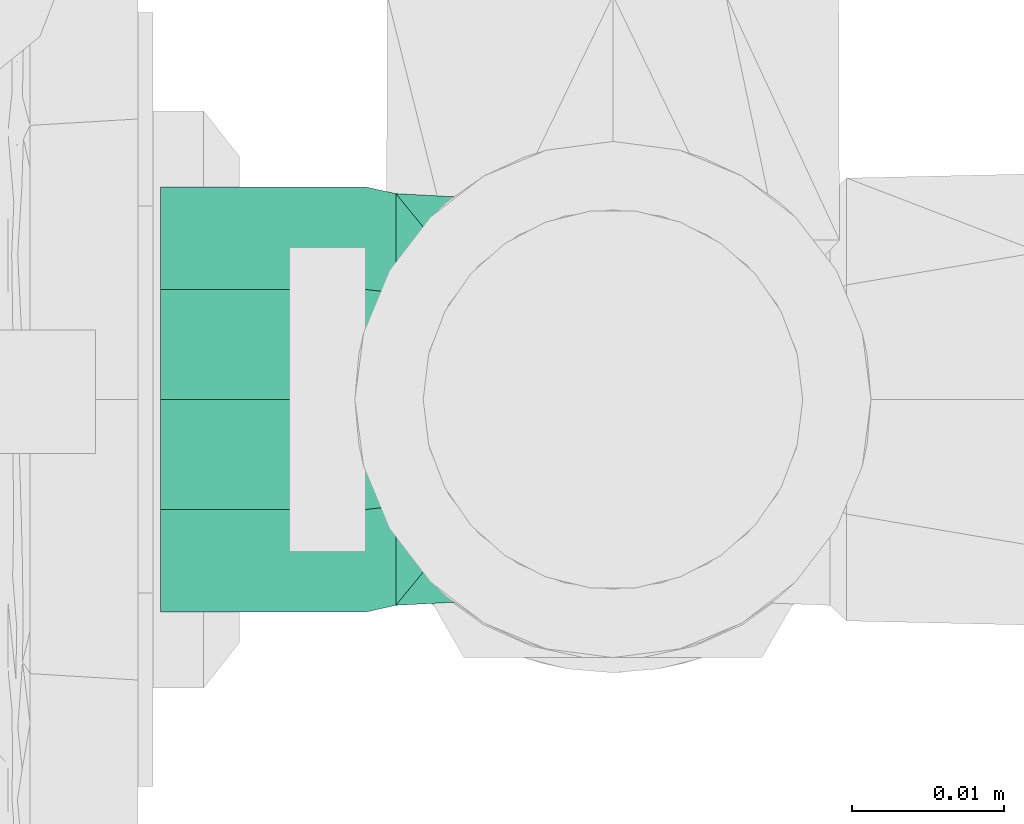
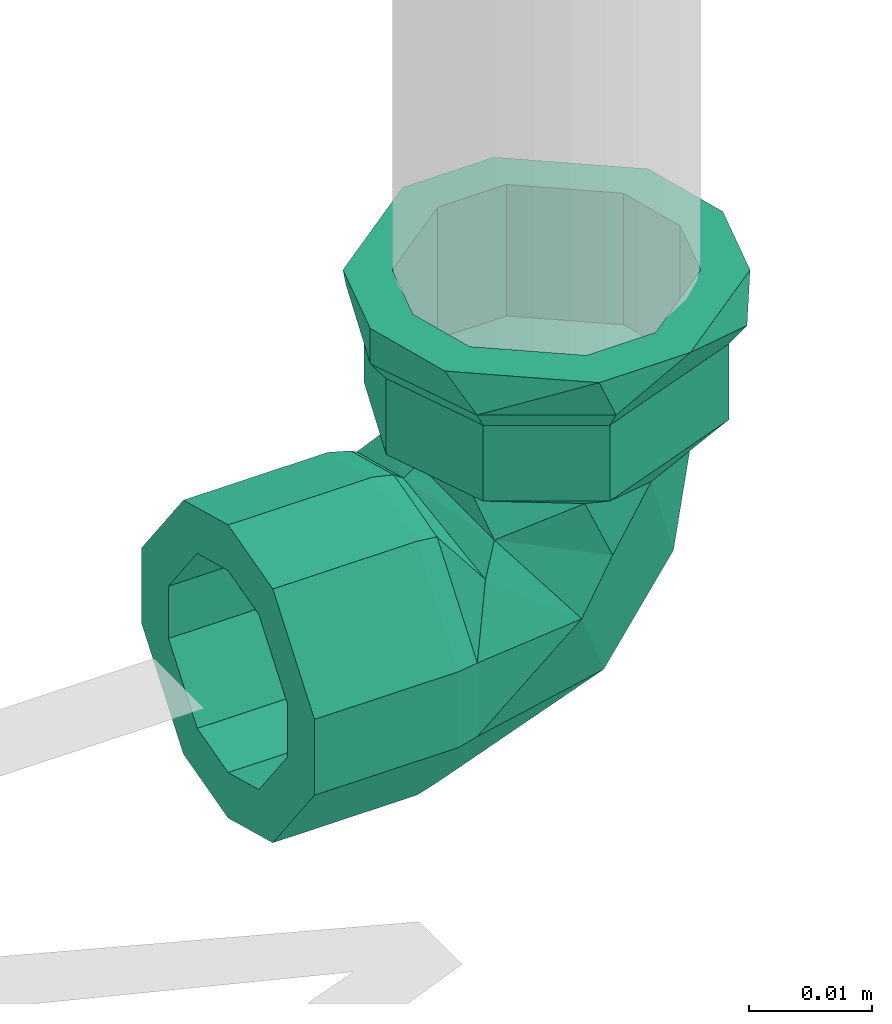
# One storey, part 396 of 589: 1 flow fitting.
"""IFC2X3 building model written with IfcOpenShell, lengths in millimetres."""

from ifc_helpers import new_model, entity, si_unit, converted_unit, derived_unit, direction, frame, origin, place, context, subcontext, project, spatial, faceted_brep, source, transform, mapped, material, type_object, type_shapes, element, save


model = new_model("IFC2X3")

# Units and contexts
model_context = context("Model", 3, precision=0.01, world=origin(), true_north=direction((6.123031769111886e-17, 1.0)))
body_context = subcontext(model_context, "Body", "Model", "MODEL_VIEW")
ifc_project = project(units=[si_unit("LENGTHUNIT", "METRE", prefix="MILLI"), si_unit("AREAUNIT", "SQUARE_METRE"), si_unit("VOLUMEUNIT", "CUBIC_METRE"), converted_unit("PLANEANGLEUNIT", "DEGREE", entity("IfcRatioMeasure", 0.017453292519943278), si_unit("PLANEANGLEUNIT", "RADIAN"), dimensions=[0, 0, 0, 0, 0, 0, 0]), si_unit("MASSUNIT", "GRAM", prefix="KILO"), derived_unit("MASSDENSITYUNIT", [(si_unit("MASSUNIT", "GRAM", prefix="KILO"), 1), (si_unit("LENGTHUNIT", "METRE"), -3)]), derived_unit("IONCONCENTRATIONUNIT", [(si_unit("MASSUNIT", "GRAM", prefix="KILO"), 1), (si_unit("LENGTHUNIT", "METRE"), -3)]), derived_unit("MOMENTOFINERTIAUNIT", [(si_unit("LENGTHUNIT", "METRE"), 4)]), si_unit("TIMEUNIT", "SECOND"), si_unit("FREQUENCYUNIT", "HERTZ"), si_unit("THERMODYNAMICTEMPERATUREUNIT", "DEGREE_CELSIUS"), derived_unit("THERMALTRANSMITTANCEUNIT", [(si_unit("MASSUNIT", "GRAM", prefix="KILO"), 1), (si_unit("THERMODYNAMICTEMPERATUREUNIT", "KELVIN"), -1), (si_unit("TIMEUNIT", "SECOND"), -3)]), derived_unit("THERMALCONDUCTANCEUNIT", [(si_unit("MASSUNIT", "GRAM", prefix="KILO"), 1), (si_unit("THERMODYNAMICTEMPERATUREUNIT", "KELVIN"), -1), (si_unit("TIMEUNIT", "SECOND"), -3), (si_unit("LENGTHUNIT", "METRE"), 1)]), derived_unit("VOLUMETRICFLOWRATEUNIT", [(si_unit("LENGTHUNIT", "METRE"), 3), (si_unit("TIMEUNIT", "SECOND"), -1)]), derived_unit("MASSFLOWRATEUNIT", [(si_unit("MASSUNIT", "GRAM", prefix="KILO"), 1), (si_unit("TIMEUNIT", "SECOND"), -1)]), derived_unit("ROTATIONALFREQUENCYUNIT", [(si_unit("TIMEUNIT", "SECOND"), -1)]), si_unit("ELECTRICCURRENTUNIT", "AMPERE"), si_unit("ELECTRICVOLTAGEUNIT", "VOLT"), si_unit("POWERUNIT", "WATT"), si_unit("FORCEUNIT", "NEWTON", prefix="KILO"), si_unit("ILLUMINANCEUNIT", "LUX"), si_unit("LUMINOUSFLUXUNIT", "LUMEN"), si_unit("LUMINOUSINTENSITYUNIT", "CANDELA"), derived_unit("USERDEFINED", [(si_unit("MASSUNIT", "GRAM", prefix="KILO"), -1), (si_unit("LENGTHUNIT", "METRE"), -2), (si_unit("TIMEUNIT", "SECOND"), 3), (si_unit("LUMINOUSFLUXUNIT", "LUMEN"), 1)]), derived_unit("USERDEFINED", [(si_unit("MASSUNIT", "GRAM", prefix="KILO"), 1), (si_unit("TIMEUNIT", "SECOND"), -3), (si_unit("LENGTHUNIT", "METRE"), 3), (si_unit("ELECTRICCURRENTUNIT", "AMPERE"), -2)]), derived_unit("SOUNDPOWERUNIT", [(si_unit("MASSUNIT", "GRAM", prefix="KILO"), 1), (si_unit("TIMEUNIT", "SECOND"), -3), (si_unit("LENGTHUNIT", "METRE"), 2)]), derived_unit("SOUNDPRESSUREUNIT", [(si_unit("MASSUNIT", "GRAM", prefix="KILO"), 1), (si_unit("LENGTHUNIT", "METRE"), -1), (si_unit("TIMEUNIT", "SECOND"), -2)]), derived_unit("LINEARVELOCITYUNIT", [(si_unit("LENGTHUNIT", "METRE"), 1), (si_unit("TIMEUNIT", "SECOND"), -1)]), si_unit("PRESSUREUNIT", "PASCAL"), derived_unit("USERDEFINED", [(si_unit("MASSUNIT", "GRAM", prefix="KILO"), 1), (si_unit("LENGTHUNIT", "METRE"), -2), (si_unit("TIMEUNIT", "SECOND"), -2)]), derived_unit("LINEARFORCEUNIT", [(si_unit("MASSUNIT", "GRAM", prefix="KILO"), 1), (si_unit("TIMEUNIT", "SECOND"), -2)]), derived_unit("PLANARFORCEUNIT", [(si_unit("MASSUNIT", "GRAM", prefix="KILO"), 1), (si_unit("LENGTHUNIT", "METRE"), -1), (si_unit("TIMEUNIT", "SECOND"), -2)]), derived_unit("SPECIFICHEATCAPACITYUNIT", [(si_unit("THERMODYNAMICTEMPERATUREUNIT", "KELVIN"), -1), (si_unit("LENGTHUNIT", "METRE"), 2), (si_unit("TIMEUNIT", "SECOND"), -2)]), derived_unit("HEATINGVALUEUNIT", [(si_unit("LENGTHUNIT", "METRE"), 2), (si_unit("TIMEUNIT", "SECOND"), -2)]), derived_unit("VAPORPERMEABILITYUNIT", [(si_unit("LENGTHUNIT", "METRE"), -1), (si_unit("TIMEUNIT", "SECOND"), 1)]), derived_unit("DYNAMICVISCOSITYUNIT", [(si_unit("MASSUNIT", "GRAM", prefix="KILO"), 1), (si_unit("TIMEUNIT", "SECOND"), -1), (si_unit("LENGTHUNIT", "METRE"), -1)]), derived_unit("THERMALEXPANSIONCOEFFICIENTUNIT", [(si_unit("THERMODYNAMICTEMPERATUREUNIT", "KELVIN"), -1)]), derived_unit("MODULUSOFELASTICITYUNIT", [(si_unit("MASSUNIT", "GRAM", prefix="KILO"), 1), (si_unit("LENGTHUNIT", "METRE"), -1), (si_unit("TIMEUNIT", "SECOND"), -2)]), derived_unit("ISOTHERMALMOISTURECAPACITYUNIT", [(si_unit("LENGTHUNIT", "METRE"), 3), (si_unit("MASSUNIT", "GRAM", prefix="KILO"), -1)]), derived_unit("MOISTUREDIFFUSIVITYUNIT", [(si_unit("TIMEUNIT", "SECOND"), -1), (si_unit("LENGTHUNIT", "METRE"), 2)])], contexts=[model_context])

# Site, building, storey
site_placement = place(None, origin())
site = spatial("IfcSite", under=ifc_project, at=site_placement, Name="Default", CompositionType="ELEMENT")
building_placement = place(site_placement, origin())
building = spatial("IfcBuilding", under=site, at=building_placement, CompositionType="ELEMENT")
storey_placement = place(building_placement, frame((0.0, 0.0, 100.0)))
storey = spatial("IfcBuildingStorey", under=building, at=storey_placement, Name="TÉRREO", CompositionType="ELEMENT", Elevation=100.0)

# Flow fitting
ifc_material = material(Name="PVC Azul")
pipe_fitting_type = type_object("IfcPipeFittingType", Name="PVC Marrom Soldável_Joelho 90° Azul com Bucha de Latão_Rodrigo MEP:Joelho_20x1/2''_ 25x1/2''_ 25x3/4'' _ 32x3/4''", PredefinedType="NOTDEFINED", material=ifc_material)
shared_shape = source(origin(), body_context, "Body", "Brep", [
    faceted_brep([(-16.299999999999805, 2.5881904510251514, -9.659258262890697), (-16.299999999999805, -2.588190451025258, -9.659258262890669), (-16.299999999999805, -3.7528761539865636, -14.005924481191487), (-16.299999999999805, 3.7528761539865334, -14.005924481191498), (-16.299999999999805, 8.660254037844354, -5.0), (-16.299999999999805, -12.557368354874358, -7.249999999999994), (-16.299999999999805, -8.660254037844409, -5.0), (-16.299999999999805, -10.0, 0.0), (-16.299999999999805, -14.499999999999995, 0.0), (-16.299999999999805, -8.660254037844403, 5.0), (-16.299999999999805, -12.557368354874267, 7.250000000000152), (-16.299999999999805, -2.5881904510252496, 9.659258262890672), (-16.299999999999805, -3.752876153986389, 14.005924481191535), (-16.299999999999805, 2.5881904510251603, 9.659258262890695), (-16.299999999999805, 3.752876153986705, 14.005924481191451), (-16.299999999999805, 8.660254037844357, 5.0), (-16.299999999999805, 12.557368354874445, 7.2499999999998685), (-16.299999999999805, 14.500000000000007, 0.0), (-16.299999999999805, 10.0, 0.0), (-16.299999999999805, 12.557368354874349, -7.250000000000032), (-23.799999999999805, 14.500000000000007, 0.0), (-25.7999999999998, 14.500000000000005, 0.0), (-29.7999999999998, 14.500000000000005, 0.0), (-29.7999999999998, 12.557368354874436, 7.24999999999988), (-25.7999999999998, 12.557368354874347, 7.250000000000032), (-23.799999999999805, 12.557368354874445, 7.2499999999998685), (-29.7999999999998, 3.7528761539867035, 14.005924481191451), (-25.7999999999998, 3.7528761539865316, 14.005924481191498), (-23.799999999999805, 3.752876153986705, 14.005924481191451), (-29.7999999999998, -3.75287615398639, 14.005924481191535), (-25.7999999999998, -3.752876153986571, 14.005924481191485), (-23.799999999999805, -3.752876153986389, 14.005924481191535), (-29.7999999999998, -12.557368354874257, 7.250000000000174), (-25.7999999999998, -12.557368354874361, 7.24999999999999), (-23.799999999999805, -12.557368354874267, 7.250000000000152), (-29.7999999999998, -14.499999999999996, 0.0), (-25.7999999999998, -14.499999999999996, 0.0), (-23.799999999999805, -14.499999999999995, 0.0), (-29.7999999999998, -12.557368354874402, -7.249999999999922), (-25.7999999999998, -12.557368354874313, -7.250000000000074), (-23.799999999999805, -12.557368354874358, -7.249999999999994), (-29.7999999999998, -3.752876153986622, -14.005924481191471), (-25.7999999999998, -3.752876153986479, -14.00592448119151), (-23.799999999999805, -3.7528761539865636, -14.005924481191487), (-29.7999999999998, 3.752876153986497, -14.005924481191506), (-25.7999999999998, 3.7528761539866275, -14.005924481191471), (-23.799999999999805, 3.7528761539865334, -14.005924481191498), (-29.7999999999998, 12.557368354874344, -7.250000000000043), (-25.7999999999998, 12.55736835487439, -7.249999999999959), (-23.799999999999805, 12.557368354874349, -7.250000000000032), (-29.7999999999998, -10.0, 0.0), (-29.7999999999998, -8.660254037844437, 5.0), (-29.7999999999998, -2.5881904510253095, 9.659258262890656), (-29.7999999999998, 2.5881904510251, 9.659258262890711), (-29.7999999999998, 8.660254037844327, 5.0), (-29.79999999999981, 10.0, 0.0), (-29.7999999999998, 8.660254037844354, -5.0), (-29.7999999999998, 2.588190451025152, -9.659258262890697), (-29.7999999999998, -2.588190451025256, -9.659258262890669), (-29.7999999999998, -8.66025403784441, -5.0)], [[[0, 1, 2]], [[2, 3, 0]], [[4, 0, 3]], [[5, 2, 1]], [[1, 6, 5]], [[6, 7, 5]], [[8, 5, 7]], [[8, 7, 9]], [[10, 8, 9]], [[9, 11, 10]], [[11, 12, 10]], [[13, 12, 11]], [[12, 13, 14]], [[13, 15, 14]], [[16, 14, 15]], [[16, 15, 17]], [[17, 15, 18]], [[18, 4, 19]], [[17, 18, 19]], [[3, 19, 4]], [[17, 20, 21, 22, 23, 24, 25, 16]], [[16, 25, 24, 23, 26, 27, 28, 14]], [[28, 27, 26, 29, 30, 31, 12, 14]], [[12, 31, 30, 29, 32, 33, 34, 10]], [[10, 34, 33, 32, 35, 36, 37, 8]], [[8, 37, 36, 35, 38, 39, 40, 5]], [[5, 40, 39, 38, 41, 42, 43, 2]], [[43, 42, 41, 44, 45, 46, 3, 2]], [[3, 46, 45, 44, 47, 48, 49, 19]], [[19, 49, 48, 47, 22, 21, 20, 17]], [[9, 7, 50, 51]], [[11, 9, 51, 52]], [[52, 53, 13, 11]], [[15, 13, 53, 54]], [[18, 15, 54, 55]], [[4, 18, 55, 56]], [[0, 4, 56, 57]], [[57, 58, 1, 0]], [[6, 1, 58, 59]], [[7, 6, 59, 50]], [[41, 58, 57]], [[58, 41, 38]], [[57, 44, 41]], [[38, 59, 58]], [[38, 50, 59]], [[50, 38, 35]], [[51, 50, 35]], [[51, 35, 32]], [[32, 52, 51]], [[32, 29, 52]], [[52, 29, 53]], [[26, 53, 29]], [[26, 54, 53]], [[54, 26, 23]], [[22, 54, 23]], [[55, 54, 22]], [[47, 55, 22]], [[47, 56, 55]], [[56, 47, 44]], [[44, 57, 56]]]),
    faceted_brep([(-16.299999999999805, -12.557368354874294, -7.250000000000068), (-16.299999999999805, -14.499999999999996, 0.0), (-16.299999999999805, -12.55736835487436, 7.249999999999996), (-16.299999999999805, -3.752876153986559, 14.005924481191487), (-16.299999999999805, 3.752876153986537, 14.005924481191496), (-16.299999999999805, 12.557368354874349, 7.250000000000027), (-16.299999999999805, 14.500000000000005, 0.0), (-16.299999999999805, 12.557368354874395, -7.249999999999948), (-16.299999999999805, 3.75287615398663, -14.005924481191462), (-16.299999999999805, -3.7528761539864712, -14.005924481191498), (-14.299999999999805, 3.6338193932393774, 13.56159860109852), (-14.299999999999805, -3.633819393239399, 13.561598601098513), (-14.299999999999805, -12.158996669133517, 7.019999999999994), (-14.299999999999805, -14.039999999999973, 0.0), (-14.299999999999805, -12.158996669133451, -7.020000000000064), (-14.299999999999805, -3.6338193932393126, -13.561598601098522), (-14.299999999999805, 3.633819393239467, -13.561598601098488), (-14.299999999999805, 12.158996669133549, -7.01999999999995), (-14.299999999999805, 14.040000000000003, 0.0), (-14.299999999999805, 12.158996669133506, 7.020000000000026)], [[[0, 1, 2, 3, 4, 5, 6, 7, 8, 9]], [[10, 11, 12, 13, 14, 15, 16, 17, 18, 19]], [[7, 6, 18, 17]], [[8, 7, 17, 16]], [[16, 15, 9, 8]], [[0, 9, 15, 14]], [[1, 0, 14, 13]], [[2, 1, 13, 12]], [[3, 2, 12, 11]], [[11, 10, 4, 3]], [[5, 4, 10, 19]], [[6, 5, 19, 18]]]),
    faceted_brep([(-3.1058285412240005, 14.30000000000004, 11.591109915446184), (-10.392304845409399, 14.30000000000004, 6.0), (-12.0, 14.30000000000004, 0.0), (-10.392304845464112, 14.30000000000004, -6.0), (-3.105828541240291, 14.30000000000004, -11.591109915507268), (3.1058285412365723, 14.30000000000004, -11.591109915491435), (10.392304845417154, 14.30000000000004, -6.0), (12.0, 14.30000000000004, 0.0), (10.392304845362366, 14.30000000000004, 6.0), (3.105828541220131, 14.30000000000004, 11.59110991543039), (11.490129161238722, 16.29999999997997, -9.64245465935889), (15.0, 16.300000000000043, 0.0), (2.6030757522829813, 16.29999999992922, -14.772406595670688), (-15.0, 16.299999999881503, 0.0), (-11.492547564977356, 16.299999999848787, -9.639572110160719), (-11.4925475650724, 16.300000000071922, 9.639572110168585), (-2.606781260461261, 16.300000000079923, 14.771753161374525), (11.490129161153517, 16.300000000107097, 9.642454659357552), (15.0, 23.800000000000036, 0.0), (11.490129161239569, 23.800000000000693, 9.64245465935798), (-2.606781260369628, 23.800000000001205, 14.771753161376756), (-11.492547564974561, 23.800000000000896, 9.63957211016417), (-15.0, 23.800000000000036, 0.0), (-11.492547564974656, 23.79999999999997, -9.639572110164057), (2.603075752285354, 23.799999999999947, -14.772406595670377), (11.4901291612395, 23.799999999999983, -9.642454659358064), (-12.639142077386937, 25.800000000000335, 10.606700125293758), (-16.500000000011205, 25.800000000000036, 0.0), (-2.8633833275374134, 25.800000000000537, 16.249647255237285), (12.641802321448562, 25.800000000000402, 10.603529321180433), (16.499999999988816, 25.800000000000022, 0.0), (12.641802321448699, 25.800000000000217, -10.603529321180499), (2.867459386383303, 25.800000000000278, -16.24892847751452), (-12.639142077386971, 25.800000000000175, -10.606700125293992), (-4.270514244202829, 29.30000000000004, -15.937776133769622), (-3.235238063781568, 29.30000000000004, -12.074072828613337), (3.235238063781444, 29.30000000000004, -12.074072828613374), (-14.28941916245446, 29.30000000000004, -8.249999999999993), (4.27051424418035, 29.30000000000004, -15.937776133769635), (-10.825317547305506, 29.30000000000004, -6.249999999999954), (-12.499999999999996, 29.30000000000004, 0.0), (-16.500000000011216, 29.30000000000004, 0.0), (-10.825317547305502, 29.30000000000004, 6.249999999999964), (-14.289419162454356, 29.30000000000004, 8.250000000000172), (-3.2352380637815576, 29.30000000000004, 12.074072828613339), (-4.27051424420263, 29.30000000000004, 15.937776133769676), (3.235238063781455, 29.30000000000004, 12.07407282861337), (4.2705142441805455, 29.30000000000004, 15.937776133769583), (10.82531754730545, 29.30000000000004, 6.250000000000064), (14.289419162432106, 29.30000000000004, 8.249999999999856), (16.499999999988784, 29.30000000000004, 0.0), (12.500000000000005, 29.30000000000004, 0.0), (14.289419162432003, 29.30000000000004, -8.250000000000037), (10.825317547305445, 29.30000000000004, -6.250000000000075), (-10.825317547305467, 16.300000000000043, -6.2500000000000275), (-12.499999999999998, 16.300000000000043, 0.0), (-10.825317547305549, 16.300000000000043, 6.249999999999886), (-3.2352380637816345, 16.30000000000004, 12.074072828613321), (3.2352380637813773, 16.30000000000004, 12.07407282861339), (10.825317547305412, 16.300000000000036, 6.250000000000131), (12.500000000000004, 16.300000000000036, 0.0), (10.82531754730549, 16.300000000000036, -6.249999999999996), (3.235238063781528, 16.30000000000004, -12.07407282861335), (-3.2352380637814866, 16.30000000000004, -12.07407282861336)], [[[0, 1, 2, 3, 4, 5, 6, 7, 8, 9]], [[6, 5, 10]], [[7, 6, 11]], [[11, 6, 10]], [[5, 12, 10]], [[3, 2, 13]], [[4, 3, 14]], [[4, 14, 12]], [[14, 3, 13]], [[4, 12, 5]], [[1, 0, 15]], [[2, 1, 13]], [[13, 1, 15]], [[0, 16, 15]], [[8, 7, 11]], [[9, 8, 17]], [[9, 17, 16]], [[17, 8, 11]], [[9, 16, 0]], [[18, 19, 17, 11]], [[17, 19, 20, 16]], [[21, 22, 13, 15]], [[21, 15, 16, 20]], [[22, 23, 14, 13]], [[14, 23, 24, 12]], [[25, 18, 11, 10]], [[25, 10, 12, 24]], [[21, 20, 26]], [[22, 21, 27]], [[27, 21, 26]], [[20, 28, 26]], [[19, 18, 29]], [[29, 28, 19]], [[30, 29, 18]], [[19, 28, 20]], [[18, 25, 31]], [[31, 30, 18]], [[32, 31, 25]], [[25, 24, 32]], [[23, 22, 27]], [[23, 33, 24]], [[33, 23, 27]], [[24, 33, 32]], [[34, 35, 36]], [[35, 34, 37]], [[36, 38, 34]], [[37, 39, 35]], [[37, 40, 39]], [[40, 37, 41]], [[42, 40, 41]], [[42, 41, 43]], [[43, 44, 42]], [[43, 45, 44]], [[44, 45, 46]], [[47, 46, 45]], [[47, 48, 46]], [[48, 47, 49]], [[50, 48, 49]], [[51, 48, 50]], [[52, 51, 50]], [[52, 53, 51]], [[53, 52, 38]], [[38, 36, 53]], [[50, 49, 30]], [[49, 29, 30]], [[29, 49, 47]], [[29, 47, 28]], [[26, 45, 43]], [[27, 43, 41]], [[45, 26, 28]], [[26, 43, 27]], [[45, 28, 47]], [[41, 37, 27]], [[37, 33, 27]], [[33, 37, 34]], [[33, 34, 32]], [[31, 38, 52]], [[30, 52, 50]], [[38, 31, 32]], [[31, 52, 30]], [[38, 32, 34]], [[54, 55, 56, 57, 58, 59, 60, 61, 62, 63]], [[56, 55, 40, 42]], [[57, 56, 42, 44]], [[44, 46, 58, 57]], [[59, 58, 46, 48]], [[60, 59, 48, 51]], [[61, 60, 51, 53]], [[62, 61, 53, 36]], [[36, 35, 63, 62]], [[54, 63, 35, 39]], [[55, 54, 39, 40]]]),
    faceted_brep([(3.1056480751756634, 14.299999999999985, 11.590538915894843), (10.391809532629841, 14.299999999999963, 5.999601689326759), (12.0, 14.299999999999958, 0.0), (10.39180953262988, 14.299999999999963, -5.999601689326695), (3.1056480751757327, 14.299999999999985, -11.590538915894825), (-3.10520360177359, 14.300000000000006, -11.590281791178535), (-10.38010506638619, 14.300000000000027, -5.994904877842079), (-12.0, 14.300000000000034, 0.0), (-10.380105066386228, 14.300000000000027, 5.994904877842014), (-3.1052036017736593, 14.300000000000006, 11.590281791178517), (-14.299999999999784, 3.633088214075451, 13.560629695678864), (-14.299999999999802, 12.144722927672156, 7.014038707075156), (-14.299999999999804, 14.040000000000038, 0.0), (-14.299999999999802, 12.144722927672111, -7.0140387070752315), (-14.299999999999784, 3.63308821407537, -13.560629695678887), (-14.299999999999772, -3.633608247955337, -13.560930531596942), (-14.299999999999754, -12.158417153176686, -7.019533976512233), (-14.299999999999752, -14.039999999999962, 0.0), (-14.299999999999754, -12.158417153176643, 7.019533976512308), (-14.299999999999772, -3.6336082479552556, 13.560930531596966), (-0.47130784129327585, -9.652655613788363, 0.0), (-13.394903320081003, 13.394903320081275, 0.0), (-11.731981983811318, 9.090980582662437, -10.425762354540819), (7.7003635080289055, 3.2782377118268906, -7.250992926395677), (-4.216463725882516, 4.16036367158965, -13.02360333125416), (0.005590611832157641, -4.597653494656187, -9.261535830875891), (-1.015336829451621, 9.007807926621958, -12.492335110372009), (-10.008512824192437, 11.46627786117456, -8.88261575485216), (3.673289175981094, -1.6924555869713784, 0.0), (-4.216465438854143, 4.1603653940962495, 13.02360333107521), (-11.731981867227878, 9.090980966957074, 10.425762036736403), (-10.008512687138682, 11.466278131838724, 8.882615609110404), (7.700363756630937, 3.278237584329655, 7.250992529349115), (0.00558956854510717, -4.597653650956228, 9.26153641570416), (-1.0153385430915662, 9.00780860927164, 12.492335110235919)], [[[0, 1, 2, 3, 4, 5, 6, 7, 8, 9]], [[10, 11, 12, 13, 14, 15, 16, 17, 18, 19]], [[20, 17, 16]], [[21, 22, 13]], [[4, 3, 23]], [[15, 24, 25]], [[26, 24, 27]], [[25, 23, 28]], [[15, 25, 16]], [[28, 20, 25]], [[23, 24, 26]], [[24, 14, 22]], [[26, 4, 23]], [[24, 22, 27]], [[14, 13, 22]], [[20, 16, 25]], [[13, 12, 21]], [[27, 22, 21]], [[2, 28, 23]], [[27, 5, 26]], [[27, 21, 7]], [[7, 6, 27]], [[27, 6, 5]], [[15, 14, 24]], [[2, 23, 3]], [[5, 4, 26]], [[23, 25, 24]], [[21, 12, 11]], [[29, 30, 10]], [[31, 9, 8]], [[29, 31, 30]], [[32, 29, 33]], [[21, 31, 7]], [[18, 20, 33]], [[31, 29, 34]], [[11, 10, 30]], [[31, 34, 9]], [[7, 31, 8]], [[21, 30, 31]], [[19, 18, 33]], [[32, 33, 28]], [[18, 17, 20]], [[20, 28, 33]], [[32, 34, 29]], [[19, 33, 29]], [[30, 21, 11]], [[34, 32, 0]], [[32, 2, 1]], [[10, 19, 29]], [[32, 1, 0]], [[0, 9, 34]], [[2, 32, 28]]]),
])
type_shapes(pipe_fitting_type, [shared_shape])
flow_fitting_placement = place(storey_placement, frame((3191.179797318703, 277.3181290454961, 1000.0), z_axis=(0.0, -1.0, 0.0), x_axis=(1.0, 0.0, 0.0)))
element("IfcFlowFitting", 1, at=flow_fitting_placement, inside=storey, type_object=pipe_fitting_type, material=ifc_material, Name="PVC Marrom Soldável_Joelho 90° Azul com Bucha de Latão_Rodrigo MEP:Joelho_20x1/2''_ 25x1/2''_ 25x3/4'' _ 32x3/4''", ObjectType="PVC Marrom Soldável_Joelho 90° Azul com Bucha de Latão_Rodrigo MEP:Joelho_20x1/2''_ 25x1/2''_ 25x3/4'' _ 32x3/4''", context=body_context, shape_type="MappedRepresentation", body=[
    mapped(shared_shape, transform((0.0, 0.0, 0.0), scale=1.0)),
])

save(model, "model.ifc")
